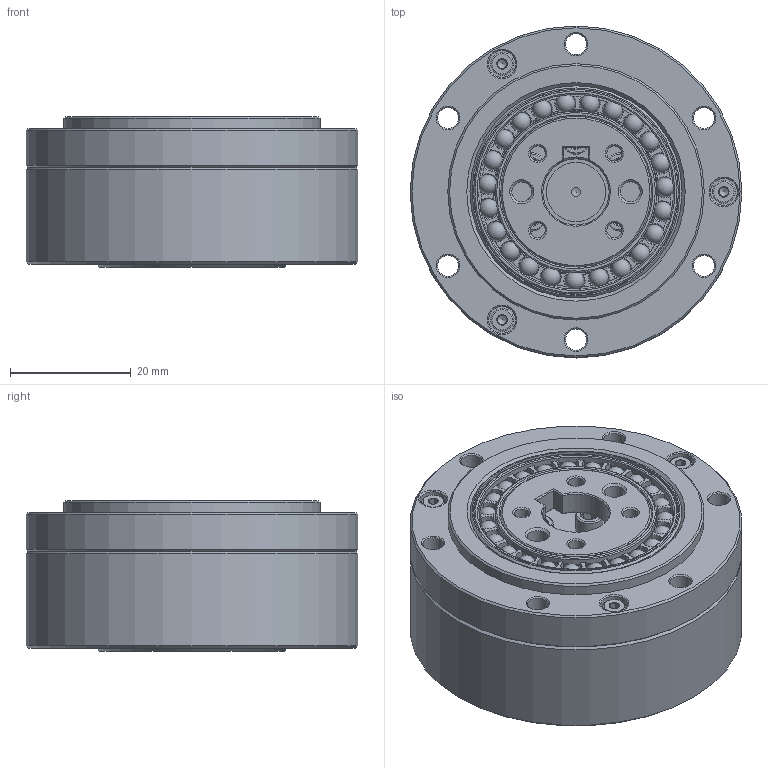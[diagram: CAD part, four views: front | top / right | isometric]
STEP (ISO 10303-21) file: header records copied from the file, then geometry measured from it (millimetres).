
FILE_DESCRIPTION(/* description */ (''),/* implementation_level */ '2;1');
FILE_NAME(/* name */ 'LSD-14-XX-U-I-φ11.stp',/* time_stamp */ '2023-07-03T09:24:37+08:00',/* author */ (''),/* organization */ (''),/* preprocessor_version */ 'ST-DEVELOPER v16.7',/* originating_system */ 'SIEMENS PLM Software NX 12.0',/* authorisation */ '');
FILE_SCHEMA (('AUTOMOTIVE_DESIGN { 1 0 10303 214 3 1 1 1 }'));
Length unit declared in the file: millimetre
Products named in the file (12): EB253406-14KC-46; EB253406-14KD-01; TC-31.5x40x4; O-43x0.5; 发生器LSD-14-φ11; GB-T70.1-2000,M3x6; GB-T70.1-2000,M2x8; 柔轮LSD-14; 刚轮LSD-14; EB253406-14KD; 交叉轴承LSD-14; LSD-14-XX-U-I-φ11
Assembly tree (18 placements, depth 3):
  LSD-14-XX-U-I-φ11
    交叉轴承LSD-14
      TC-31.5x40x4
    刚轮LSD-14
    柔轮LSD-14
    GB-T70.1-2000,M2x8  x3
    GB-T70.1-2000,M3x6  x6
    EB253406-14KD
      EB253406-14KD-01
      EB253406-14KC-46
    发生器LSD-14-φ11
    O-43x0.5
Bounding box: 55 x 55 x 25 mm (x, y, z)
Volume: 43846.5 mm3; surface area: 32299.5 mm2
Topology: 42 solids, 42 shells, 698 faces, 1598 edges, 967 vertices
Faces by surface type: plane 236, cone 191, cylinder 159, torus 88, sphere 23, revolution 1
Full cylindrical faces by diameter (mm): 1.6 x3, 1.886 x3, 2.5 x23, 2.874 x6, 3.3 x2, 3.5 x18, 3.8 x3, 4.5 x9, 9.8 x1, 11 x2, 11.7 x1, 12 x1, 12.7 x1, 22.4 x1, 24.07 x1, 25.07 x2, 26.71 x2, 27 x1, 27.45 x1, 29 x1, 30.8 x1, 31.5 x3, 32.15 x1, 32.36 x2, 33.92 x2, 34.41 x1, 35.03 x1, 35.16 x1, 35.6 x1, 36.4 x2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
Entity records: 14653 total; most frequent: CARTESIAN_POINT 3638, DIRECTION 2369, ORIENTED_EDGE 1688, AXIS2_PLACEMENT_3D 1110, EDGE_CURVE 844, EDGE_LOOP 826, VERTEX_POINT 699, FACE_BOUND 685
